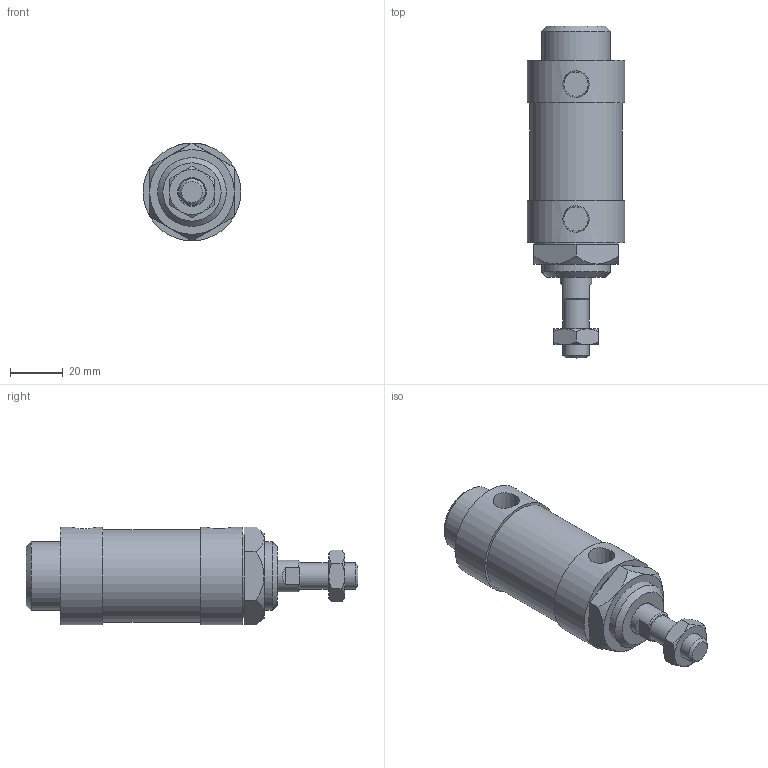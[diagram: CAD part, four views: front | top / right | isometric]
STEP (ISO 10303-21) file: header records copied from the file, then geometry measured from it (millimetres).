
FILE_DESCRIPTION(/* description */ ('Unknown'),/* implementation_level */ '2;1');
FILE_NAME(/* name */ 'WK30',/* time_stamp */ '2026-07-17T16:32:29+08:00',/* author */ ('Unknown'),/* organization */ ('Unknown'),/* preprocessor_version */ 'ST-DEVELOPER v16.7',/* originating_system */ 'DEX',/* authorisation */ $);
FILE_SCHEMA (('CONFIG_CONTROL_DESIGN'));
Length unit declared in the file: millimetre
Products named in the file (7): WK30; WK30_前; WK30_鋁; WK30_後; WK30_¤ß¶b¬¡æ´»å¡žçµ„; M10-1.25P-6_Á³raditional)_Taiwan.950; M26-1.5P-8_螺
Assembly tree (6 placements, depth 2):
  WK30
    WK30_前
    WK30_鋁
    WK30_後
    WK30_¤ß¶b¬¡æ´»å¡žçµ„
    M10-1.25P-6_Á³raditional)_Taiwan.950
    M26-1.5P-8_螺
Bounding box: 37 x 125.5 x 37 mm (x, y, z)
Volume: 90385.3 mm3; surface area: 30146 mm2
Topology: 6 solids, 6 shells, 90 faces, 191 edges, 119 vertices
Faces by surface type: plane 43, cone 32, cylinder 15
Full cylindrical faces by diameter (mm): 8.75 x1, 10 x1, 12 x2, 24.5 x1, 26 x2, 29.5 x1, 30 x1, 32 x3, 35 x1, 37 x2
Entity records: 2979 total; most frequent: CARTESIAN_POINT 525, DIRECTION 370, ORIENTED_EDGE 294, AXIS2_PLACEMENT_3D 168, EDGE_CURVE 147, EDGE_LOOP 132, FACE_BOUND 132, VERTEX_POINT 103
